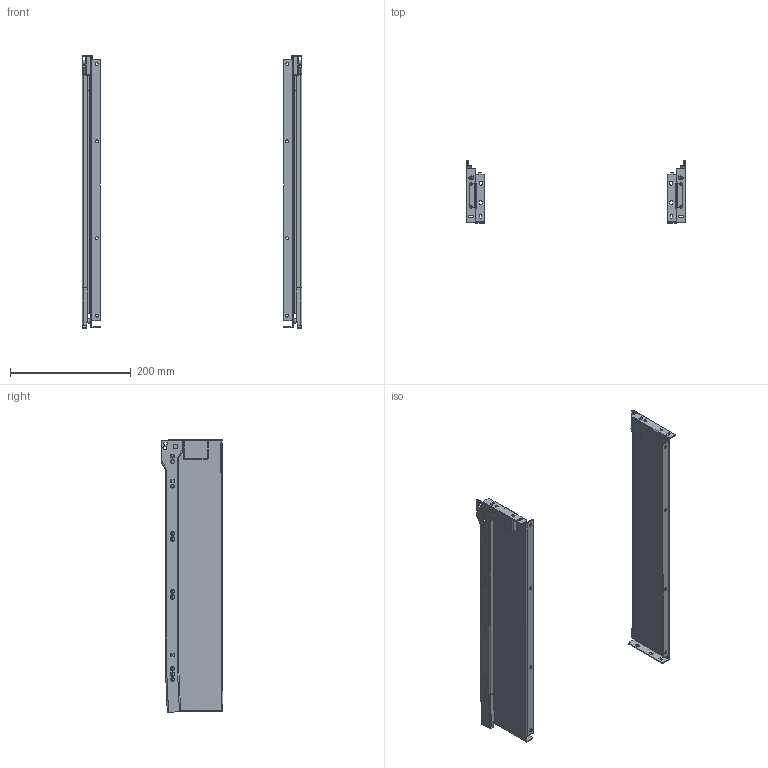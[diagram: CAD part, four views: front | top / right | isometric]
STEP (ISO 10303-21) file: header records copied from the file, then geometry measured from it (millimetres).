
FILE_DESCRIPTION(/* description */ (''),/* implementation_level */ '2;1');
FILE_NAME(/* name */ 'D:\$Workingspace\Designs\Katalog\Cadsoft\GTV Prwadnice II\MP (2)\MP\Metal box 3D\MP-086450-10.stp',/* time_stamp */ '2017-02-09T10:11:57+01:00',/* author */ ('tomaszw'),/* organization */ (''),/* preprocessor_version */ 'ST-DEVELOPER v16.1',/* originating_system */ 'Autodesk Inventor 2016',/* authorisation */ '');
FILE_SCHEMA (('CONFIG_CONTROL_DESIGN'));
Length unit declared in the file: millimetre
Products named in the file (5): MP-450-10_CL; MP-450-10_CR; MP-086450-10_DL; MP-086450-10_DR; MP
Assembly tree (4 placements, depth 2):
  MP
    MP-450-10_CL
    MP-450-10_CR
    MP-086450-10_DL
    MP-086450-10_DR
Bounding box: 364 x 102.56 x 451.18 mm (x, y, z)
Volume: 195769.3 mm3; surface area: 292159.9 mm2
Topology: 8 solids, 8 shells, 484 faces, 1250 edges, 794 vertices
Faces by surface type: plane 222, cylinder 200, cone 30, torus 20, sphere 12
Full cylindrical faces by diameter (mm): 4 x4, 4.8 x2, 5 x8, 5.5 x12, 6.5 x8, 7 x4, 8 x4, 18.5 x4
Entity records: 15265 total; most frequent: CARTESIAN_POINT 2675, DIRECTION 2572, ORIENTED_EDGE 2332, EDGE_CURVE 1166, AXIS2_PLACEMENT_3D 931, VERTEX_POINT 786, LINE 710, VECTOR 710
